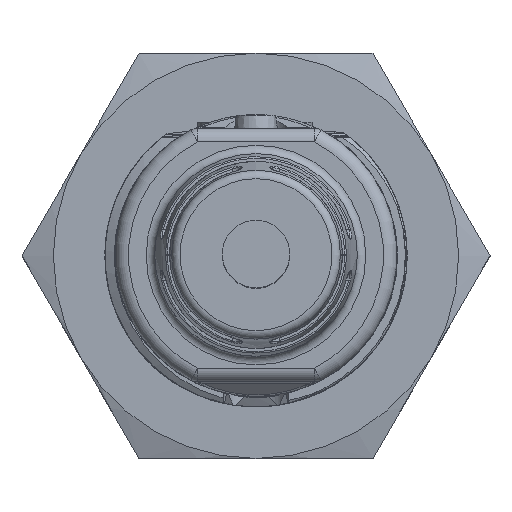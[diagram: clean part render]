
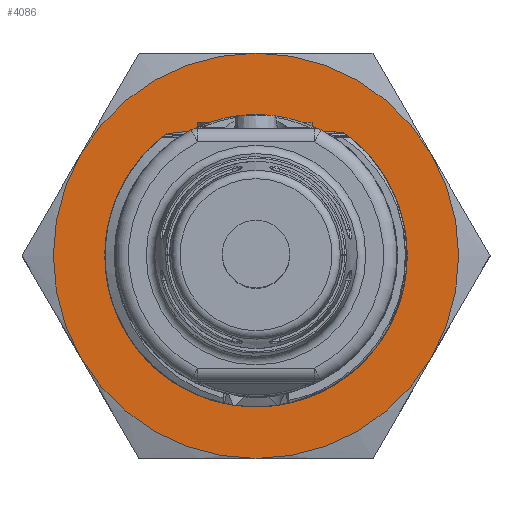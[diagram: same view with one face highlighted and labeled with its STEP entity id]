
A CAD part, top view. The second image highlights one B-rep face of the part: STEP entity #4086.
In plain terms, the highlighted planar face has unit normal (0, 0, 1).
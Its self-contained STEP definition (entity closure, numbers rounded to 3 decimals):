
#3254=FACE_BOUND('',#5324,.T.);
#3255=FACE_BOUND('',#5325,.T.);
#3339=CIRCLE('',#11574,7.825);
#3341=CIRCLE('',#11576,7.825);
#3532=CIRCLE('',#11939,8.39);
#3536=CIRCLE('',#11958,8.95);
#3544=CIRCLE('',#12021,12.);
#3545=CIRCLE('',#12023,12.);
#3546=CIRCLE('',#12025,12.);
#3547=CIRCLE('',#12027,12.);
#3548=CIRCLE('',#12029,12.);
#3549=CIRCLE('',#12031,12.);
#4086=ADVANCED_FACE('',(#3254,#3255),#4317,.T.);
#4317=PLANE('',#12045);
#5324=EDGE_LOOP('',(#8301,#8302,#8303,#8304,#8305,#8306,#8307,#8308,#8309,
#8310,#8311,#8312,#8313));
#5325=EDGE_LOOP('',(#8314,#8315,#8316,#8317,#8318,#8319));
#5464=LINE('',#18708,#5879);
#5467=LINE('',#18908,#5882);
#5476=LINE('',#18942,#5891);
#5490=LINE('',#19005,#5905);
#5721=LINE('',#25542,#6136);
#5879=VECTOR('',#12358,1.);
#5882=VECTOR('',#12367,1.);
#5891=VECTOR('',#12398,1.);
#5905=VECTOR('',#12436,1.);
#6136=VECTOR('',#13529,1.);
#8301=ORIENTED_EDGE('',*,*,#9784,.F.);
#8302=ORIENTED_EDGE('',*,*,#9809,.F.);
#8303=ORIENTED_EDGE('',*,*,#9749,.F.);
#8304=ORIENTED_EDGE('',*,*,#9873,.T.);
#8305=ORIENTED_EDGE('',*,*,#10591,.F.);
#8306=ORIENTED_EDGE('',*,*,#10442,.F.);
#8307=ORIENTED_EDGE('',*,*,#10602,.T.);
#8308=ORIENTED_EDGE('',*,*,#10644,.T.);
#8309=ORIENTED_EDGE('',*,*,#10626,.T.);
#8310=ORIENTED_EDGE('',*,*,#10640,.F.);
#8311=ORIENTED_EDGE('',*,*,#9754,.F.);
#8312=ORIENTED_EDGE('',*,*,#9768,.F.);
#8313=ORIENTED_EDGE('',*,*,#9868,.T.);
#8314=ORIENTED_EDGE('',*,*,#10690,.F.);
#8315=ORIENTED_EDGE('',*,*,#10705,.F.);
#8316=ORIENTED_EDGE('',*,*,#10702,.F.);
#8317=ORIENTED_EDGE('',*,*,#10700,.F.);
#8318=ORIENTED_EDGE('',*,*,#10697,.F.);
#8319=ORIENTED_EDGE('',*,*,#10694,.F.);
#8925=VERTEX_POINT('',#18707);
#8926=VERTEX_POINT('',#18709);
#8930=VERTEX_POINT('',#18724);
#8931=VERTEX_POINT('',#18729);
#8943=VERTEX_POINT('',#18906);
#8957=VERTEX_POINT('',#18940);
#8959=VERTEX_POINT('',#18943);
#9011=VERTEX_POINT('',#19142);
#9370=VERTEX_POINT('',#22912);
#9371=VERTEX_POINT('',#22917);
#9506=VERTEX_POINT('',#35370);
#9507=VERTEX_POINT('',#58899);
#9508=VERTEX_POINT('',#58900);
#9519=VERTEX_POINT('',#70823);
#9520=VERTEX_POINT('',#70825);
#9521=VERTEX_POINT('',#70835);
#9523=VERTEX_POINT('',#70847);
#9525=VERTEX_POINT('',#70859);
#9528=VERTEX_POINT('',#70873);
#9749=EDGE_CURVE('',#8925,#8926,#5464,.T.);
#9754=EDGE_CURVE('',#8930,#8931,#11026,.T.);
#9768=EDGE_CURVE('',#8943,#8930,#5467,.T.);
#9784=EDGE_CURVE('',#8957,#8959,#5476,.T.);
#9809=EDGE_CURVE('',#8926,#8957,#5490,.T.);
#9868=EDGE_CURVE('',#8943,#8959,#3339,.T.);
#9873=EDGE_CURVE('',#8925,#9011,#3341,.T.);
#10442=EDGE_CURVE('',#9370,#9371,#11275,.T.);
#10591=EDGE_CURVE('',#9371,#9011,#5721,.T.);
#10602=EDGE_CURVE('',#9370,#9506,#11347,.T.);
#10626=EDGE_CURVE('',#9507,#9508,#11371,.T.);
#10640=EDGE_CURVE('',#8931,#9508,#3532,.T.);
#10644=EDGE_CURVE('',#9506,#9507,#3536,.T.);
#10690=EDGE_CURVE('',#9519,#9520,#3544,.T.);
#10694=EDGE_CURVE('',#9520,#9521,#3545,.T.);
#10697=EDGE_CURVE('',#9521,#9523,#3546,.T.);
#10700=EDGE_CURVE('',#9523,#9525,#3547,.T.);
#10702=EDGE_CURVE('',#9525,#9528,#3548,.T.);
#10705=EDGE_CURVE('',#9528,#9519,#3549,.T.);
#11026=B_SPLINE_CURVE_WITH_KNOTS('',3,(#18725,#18726,#18727,#18728),
 .UNSPECIFIED.,.F.,.F.,(4,4),(0.,1.),.UNSPECIFIED.);
#11275=B_SPLINE_CURVE_WITH_KNOTS('',3,(#22913,#22914,#22915,#22916),
 .UNSPECIFIED.,.F.,.F.,(4,4),(0.,1.),.UNSPECIFIED.);
#11347=B_SPLINE_CURVE_WITH_KNOTS('',3,(#35366,#35367,#35368,#35369),
 .UNSPECIFIED.,.F.,.F.,(4,4),(0.,1.),.UNSPECIFIED.);
#11371=B_SPLINE_CURVE_WITH_KNOTS('',3,(#58893,#58894,#58895,#58896,#58897,
#58898),.UNSPECIFIED.,.F.,.F.,(4,2,4),(0.,0.5,1.),.UNSPECIFIED.);
#11574=AXIS2_PLACEMENT_3D('',#19128,#12597,#12598);
#11576=AXIS2_PLACEMENT_3D('',#19143,#12603,#12604);
#11939=AXIS2_PLACEMENT_3D('',#70663,#13534,#13535);
#11958=AXIS2_PLACEMENT_3D('',#70682,#13572,#13573);
#12021=AXIS2_PLACEMENT_3D('',#70824,#13735,#13736);
#12023=AXIS2_PLACEMENT_3D('',#70841,#13739,#13740);
#12025=AXIS2_PLACEMENT_3D('',#70853,#13743,#13744);
#12027=AXIS2_PLACEMENT_3D('',#70865,#13747,#13748);
#12029=AXIS2_PLACEMENT_3D('',#70872,#13751,#13752);
#12031=AXIS2_PLACEMENT_3D('',#70884,#13755,#13756);
#12045=AXIS2_PLACEMENT_3D('',#70962,#13783,#13784);
#12358=DIRECTION('',(0.,1.,0.));
#12367=DIRECTION('',(0.,1.,0.));
#12398=DIRECTION('',(0.,-1.,0.));
#12436=DIRECTION('',(-1.,0.,0.));
#12597=DIRECTION('',(0.,0.,-1.));
#12598=DIRECTION('',(1.,0.,0.));
#12603=DIRECTION('',(0.,0.,-1.));
#12604=DIRECTION('',(1.,0.,0.));
#13529=DIRECTION('',(0.,-1.,0.));
#13534=DIRECTION('',(0.,0.,1.));
#13535=DIRECTION('',(1.,0.,0.));
#13572=DIRECTION('',(0.,0.,-1.));
#13573=DIRECTION('',(1.,0.,0.));
#13735=DIRECTION('',(0.,0.,-1.));
#13736=DIRECTION('',(1.,0.,0.));
#13739=DIRECTION('',(0.,0.,-1.));
#13740=DIRECTION('',(1.,0.,0.));
#13743=DIRECTION('',(0.,0.,-1.));
#13744=DIRECTION('',(1.,0.,0.));
#13747=DIRECTION('',(0.,0.,-1.));
#13748=DIRECTION('',(-1.,0.,0.));
#13751=DIRECTION('',(0.,0.,-1.));
#13752=DIRECTION('',(1.,0.,0.));
#13755=DIRECTION('',(0.,0.,-1.));
#13756=DIRECTION('',(1.,0.,0.));
#13783=DIRECTION('',(0.,0.,1.));
#13784=DIRECTION('',(-1.,0.,0.));
#18707=CARTESIAN_POINT('',(2.233,7.5,21.));
#18708=CARTESIAN_POINT('',(2.233,7.7,21.));
#18709=CARTESIAN_POINT('',(2.233,7.9,21.));
#18724=CARTESIAN_POINT('',(-3.324,7.433,21.));
#18725=CARTESIAN_POINT('',(-3.324,7.433,21.));
#18726=CARTESIAN_POINT('',(-3.543,7.416,21.));
#18727=CARTESIAN_POINT('',(-3.762,7.4,21.));
#18728=CARTESIAN_POINT('',(-3.981,7.385,21.));
#18729=CARTESIAN_POINT('',(-3.981,7.385,21.));
#18906=CARTESIAN_POINT('',(-3.324,7.084,21.));
#18908=CARTESIAN_POINT('',(-3.324,10.108,21.));
#18940=CARTESIAN_POINT('',(-2.333,7.9,21.));
#18942=CARTESIAN_POINT('',(-2.333,7.7,21.));
#18943=CARTESIAN_POINT('',(-2.333,7.469,21.));
#19005=CARTESIAN_POINT('',(0.,7.9,21.));
#19128=CARTESIAN_POINT('',(0.,0.,21.));
#19142=CARTESIAN_POINT('',(3.324,7.084,21.));
#19143=CARTESIAN_POINT('',(0.,0.,21.));
#22912=CARTESIAN_POINT('',(4.592,7.348,21.));
#22913=CARTESIAN_POINT('',(4.592,7.348,21.));
#22914=CARTESIAN_POINT('',(4.169,7.372,21.));
#22915=CARTESIAN_POINT('',(3.747,7.4,21.));
#22916=CARTESIAN_POINT('',(3.324,7.433,21.));
#22917=CARTESIAN_POINT('',(3.324,7.433,21.));
#25542=CARTESIAN_POINT('',(3.324,10.108,21.));
#35366=CARTESIAN_POINT('',(4.592,7.348,21.));
#35367=CARTESIAN_POINT('',(7.237,5.81,21.));
#35368=CARTESIAN_POINT('',(8.921,2.862,21.));
#35369=CARTESIAN_POINT('',(8.948,-0.197,21.));
#35370=CARTESIAN_POINT('',(8.948,-0.197,21.));
#58893=CARTESIAN_POINT('',(6.487,-6.166,21.));
#58894=CARTESIAN_POINT('',(4.382,-8.249,21.));
#58895=CARTESIAN_POINT('',(1.223,-9.159,21.));
#58896=CARTESIAN_POINT('',(-4.477,-7.882,21.));
#58897=CARTESIAN_POINT('',(-6.957,-5.693,21.));
#58898=CARTESIAN_POINT('',(-7.881,-2.878,21.));
#58899=CARTESIAN_POINT('',(6.487,-6.166,21.));
#58900=CARTESIAN_POINT('',(-7.881,-2.878,21.));
#70663=CARTESIAN_POINT('',(0.,0.,21.));
#70682=CARTESIAN_POINT('',(0.,0.,21.));
#70823=CARTESIAN_POINT('',(10.392,-6.,21.));
#70824=CARTESIAN_POINT('',(0.,0.,
21.));
#70825=CARTESIAN_POINT('',(0.,-12.,21.));
#70835=CARTESIAN_POINT('',(-10.392,-6.,21.));
#70841=CARTESIAN_POINT('',(0.,0.,
21.));
#70847=CARTESIAN_POINT('',(-10.392,6.,21.));
#70853=CARTESIAN_POINT('',(0.,0.,
21.));
#70859=CARTESIAN_POINT('',(0.,12.,21.));
#70865=CARTESIAN_POINT('',(0.,0.,
21.));
#70872=CARTESIAN_POINT('',(0.,0.,
21.));
#70873=CARTESIAN_POINT('',(10.392,6.,21.));
#70884=CARTESIAN_POINT('',(0.,0.,
21.));
#70962=CARTESIAN_POINT('',(0.,0.,
21.));
